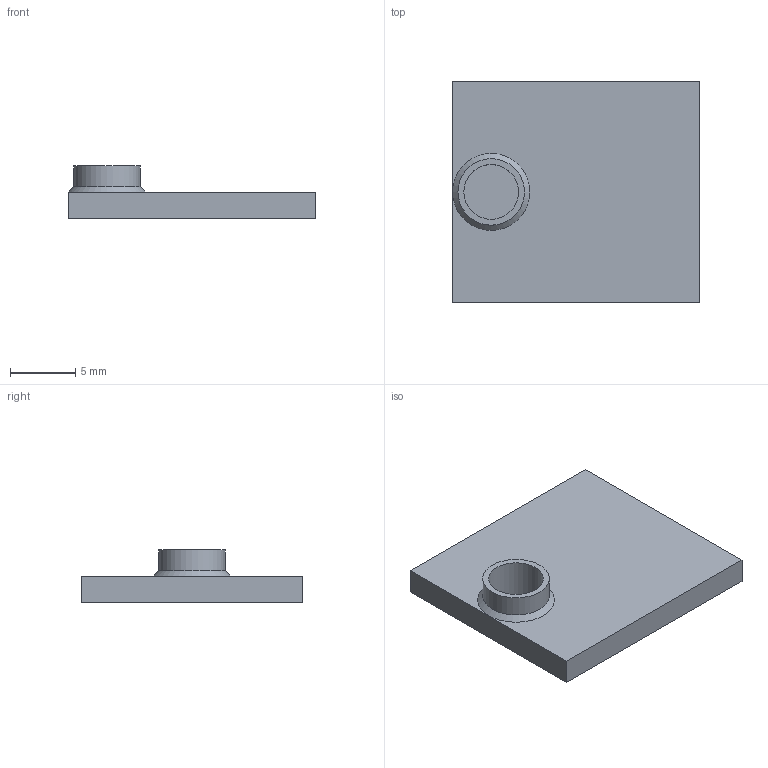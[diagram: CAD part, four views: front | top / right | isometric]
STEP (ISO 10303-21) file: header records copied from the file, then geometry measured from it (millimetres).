
FILE_DESCRIPTION(('FreeCAD Model'),'2;1');
FILE_NAME('Open CASCADE Shape Model','2026-05-05T19:30:19',(''),(''), 'Open CASCADE STEP processor 7.8','FreeCAD','Unknown');
FILE_SCHEMA(('AUTOMOTIVE_DESIGN { 1 0 10303 214 1 1 1 1 }'));
Length unit declared in the file: millimetre
Products named in the file (1): magnetholder_cover
Bounding box: 19 x 17 x 4 mm (x, y, z)
Volume: 634.9 mm3; surface area: 869.3 mm2
Topology: 1 solids, 1 shells, 11 faces, 20 edges, 13 vertices
Faces by surface type: plane 8, cylinder 2, cone 1
Full cylindrical faces by diameter (mm): 4.2 x1, 5.1 x1
Entity records: 292 total; most frequent: DIRECTION 48, CARTESIAN_POINT 46, ORIENTED_EDGE 40, EDGE_CURVE 20, AXIS2_PLACEMENT_3D 17, LINE 14, VECTOR 14, FACE_BOUND 13
